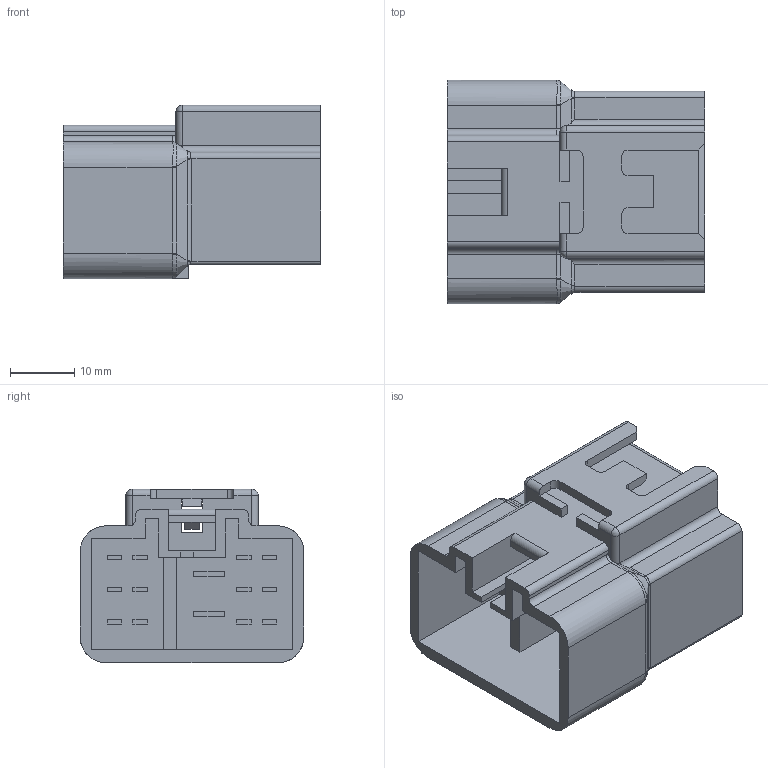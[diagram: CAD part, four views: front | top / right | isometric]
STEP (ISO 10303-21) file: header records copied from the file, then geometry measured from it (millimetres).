
FILE_DESCRIPTION(('CATIA V5 STEP Exchange'),'2;1');
FILE_NAME('N:\C-DAM_MyDesk\ENV\11093U\1設\6241-0261.stp','2013-02-28T04:40:02+00:00',('none'),('none'),'CATIA Version 5 Release 20 SP 4 (IN-10)','CATIA V5 STEP AP203','none');
FILE_SCHEMA(('CONFIG_CONTROL_DESIGN'));
Length unit declared in the file: millimetre
Products named in the file (1): 6241-0261
Bounding box: 40 x 34.8 x 27 mm (x, y, z)
Volume: 17737.7 mm3; surface area: 9852.2 mm2
Topology: 1 solids, 1 shells, 314 faces, 805 edges, 517 vertices
Faces by surface type: plane 239, bspline 35, cylinder 34, torus 4, sphere 2
Entity records: 10520 total; most frequent: CARTESIAN_POINT 3481, ORIENTED_EDGE 1606, DIRECTION 1112, EDGE_CURVE 803, VECTOR 640, LINE 640, VERTEX_POINT 517, EDGE_LOOP 344
